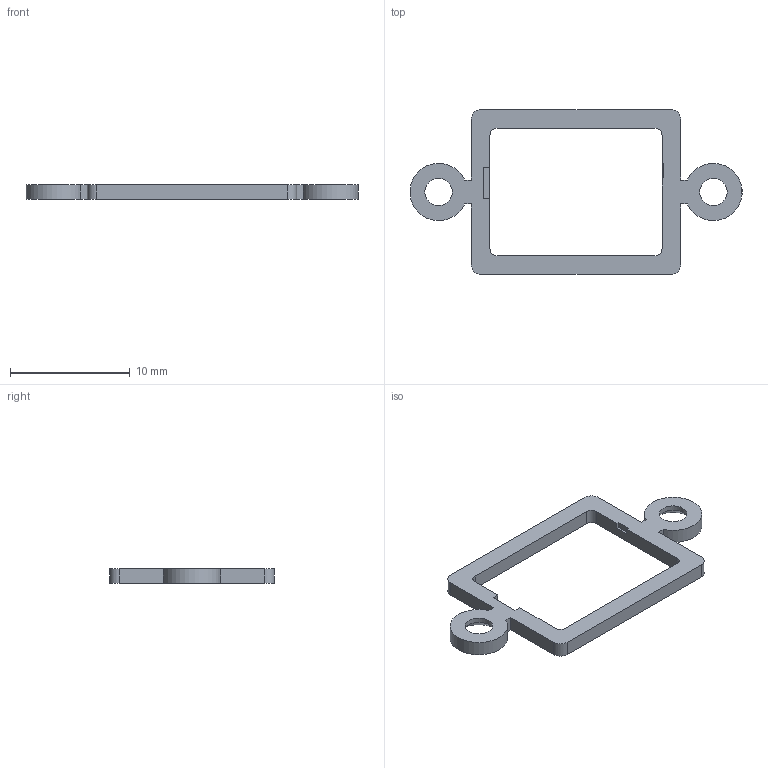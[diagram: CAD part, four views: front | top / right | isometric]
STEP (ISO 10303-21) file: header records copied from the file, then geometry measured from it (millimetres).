
FILE_DESCRIPTION(/* description */ (''),/* implementation_level */ '2;1');
FILE_NAME(/* name */ 'C28_R2_Microphone_Keeper_Passive_Reliefs_REVIEW.step',/* time_stamp */ '2026-09-10T17:49:11-07:00',/* author */ (''),/* organization */ (''),/* preprocessor_version */ 'ST-DEVELOPER v20.1',/* originating_system */ 'Autodesk Translation Framework v15.8.0.0',/* authorisation */ '');
FILE_SCHEMA (('AUTOMOTIVE_DESIGN { 1 0 10303 214 3 1 1 }'));
Length unit declared in the file: millimetre
Products named in the file (1): 2026-09-10-17-49-11-216
Bounding box: 27.78 x 13.8 x 1.25 mm (x, y, z)
Volume: 139.1 mm3; surface area: 415.6 mm2
Topology: 1 solids, 1 shells, 38 faces, 106 edges, 70 vertices
Faces by surface type: plane 24, cylinder 12, cone 2
Full cylindrical faces by diameter (mm): 2.3 x2
Entity records: 1265 total; most frequent: CARTESIAN_POINT 215, ORIENTED_EDGE 212, DIRECTION 210, EDGE_CURVE 106, LINE 80, VECTOR 80, VERTEX_POINT 70, AXIS2_PLACEMENT_3D 65
